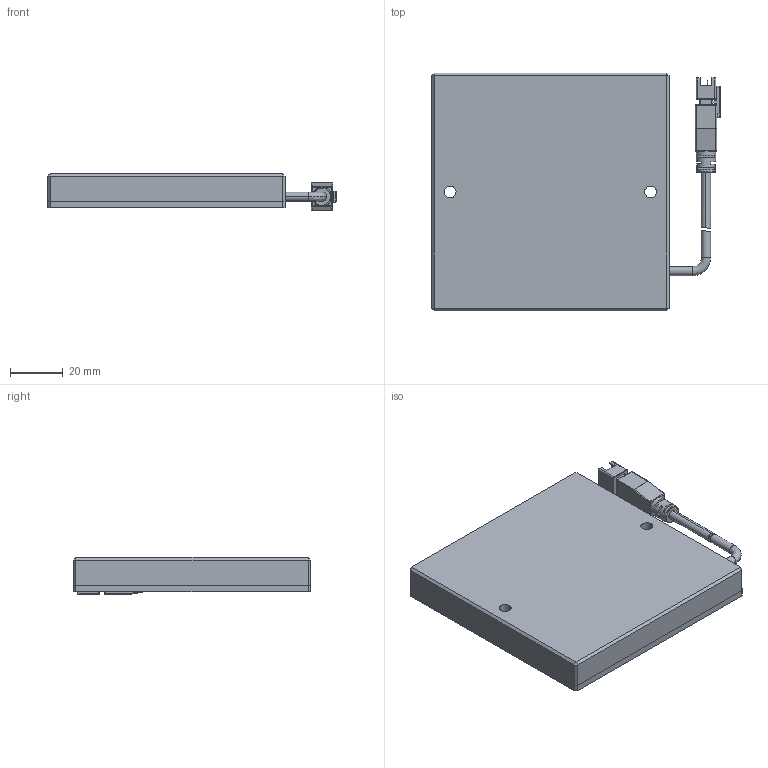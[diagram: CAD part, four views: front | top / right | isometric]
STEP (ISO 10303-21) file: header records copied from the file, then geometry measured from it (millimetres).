
FILE_DESCRIPTION (( 'STEP AP203' ), '1' );
FILE_NAME ('CRT-FLC5050-¼òÒ×3DÍ¼.STEP', '2021-12-10T01:51:52', ( 'Admin' ), ( '' ), 'SwSTEP 2.0', 'SolidWorks 2018', '' );
FILE_SCHEMA (( 'CONFIG_CONTROL_DESIGN' ));
Length unit declared in the file: millimetre
Products named in the file (1): CRT-FLC5050-潠眢3D芞
Bounding box: 109.45 x 90 x 14.1 mm (x, y, z)
Surface area: 30970.6 mm2 (no closed solid volume)
Topology: 0 solids, 5 shells, 241 faces, 691 edges, 437 vertices
Faces by surface type: plane 145, cylinder 69, bspline 20, torus 4, cone 3
Entity records: 8367 total; most frequent: CARTESIAN_POINT 2183, DIRECTION 1249, ORIENTED_EDGE 1228, EDGE_CURVE 681, VECTOR 453, LINE 453, VERTEX_POINT 437, AXIS2_PLACEMENT_3D 398
